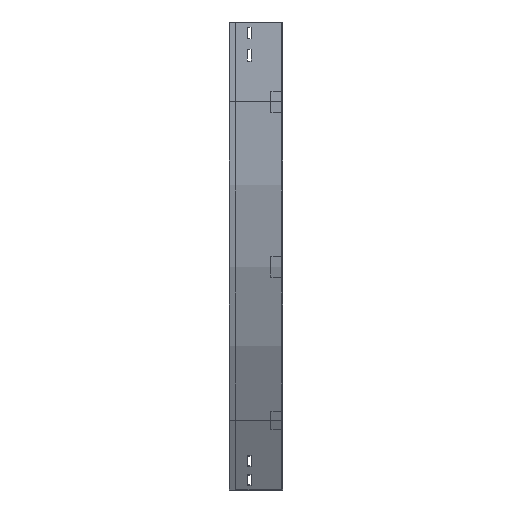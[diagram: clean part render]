
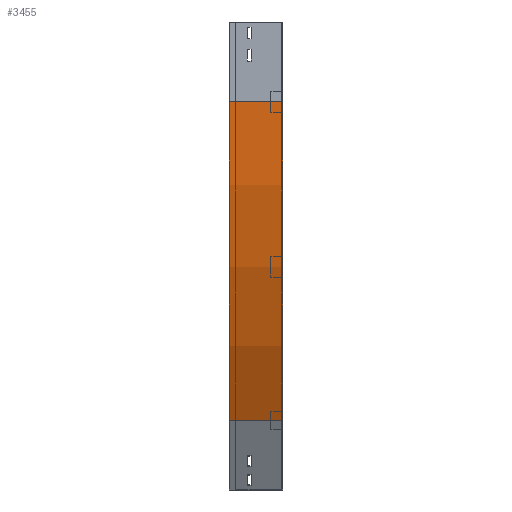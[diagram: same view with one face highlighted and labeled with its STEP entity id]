
A CAD part, left-side view. The second image highlights one B-rep face of the part: STEP entity #3455.
In plain terms, the highlighted cylindrical face has radius 1200 mm (diameter 2400 mm), a partial arc.
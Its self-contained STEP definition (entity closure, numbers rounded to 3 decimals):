
#20 = ORIENTED_EDGE ( 'NONE', *, *, #2915, .T. ) ;
#89 = LINE ( 'NONE', #985, #1207 ) ;
#107 = VERTEX_POINT ( 'NONE', #847 ) ;
#111 = DIRECTION ( 'NONE',  ( 0., -1., 0. ) ) ;
#160 = VECTOR ( 'NONE', #1553, 1000. ) ;
#295 = EDGE_CURVE ( 'NONE', #973, #3364, #89, .T. ) ;
#330 = AXIS2_PLACEMENT_3D ( 'NONE', #3189, #567, #2659 ) ;
#371 = CARTESIAN_POINT ( 'NONE',  ( 1200., 100., -150. ) ) ;
#456 = CARTESIAN_POINT ( 'NONE',  ( 0., 0., -150. ) ) ;
#567 = DIRECTION ( 'NONE',  ( 0., -1., 0. ) ) ;
#654 = DIRECTION ( 'NONE',  ( -1., 0., 0. ) ) ;
#847 = CARTESIAN_POINT ( 'NONE',  ( 160.77, 100., -750. ) ) ;
#854 = ORIENTED_EDGE ( 'NONE', *, *, #295, .F. ) ;
#876 = CARTESIAN_POINT ( 'NONE',  ( 1200., 0., -150. ) ) ;
#892 = CARTESIAN_POINT ( 'NONE',  ( 0., 100., -150. ) ) ;
#973 = VERTEX_POINT ( 'NONE', #892 ) ;
#985 = CARTESIAN_POINT ( 'NONE',  ( 0., 0., -150. ) ) ;
#991 = LINE ( 'NONE', #2417, #160 ) ;
#1029 = EDGE_LOOP ( 'NONE', ( #2702, #854, #1294, #20 ) ) ;
#1207 = VECTOR ( 'NONE', #111, 1000. ) ;
#1214 = AXIS2_PLACEMENT_3D ( 'NONE', #371, #1803, #654 ) ;
#1294 = ORIENTED_EDGE ( 'NONE', *, *, #2723, .T. ) ;
#1401 = CIRCLE ( 'NONE', #1214, 1200. ) ;
#1410 = AXIS2_PLACEMENT_3D ( 'NONE', #876, #2121, #3279 ) ;
#1553 = DIRECTION ( 'NONE',  ( 0., -1., 0. ) ) ;
#1600 = CARTESIAN_POINT ( 'NONE',  ( 160.77, 0., -750. ) ) ;
#1803 = DIRECTION ( 'NONE',  ( 0., -1., 0. ) ) ;
#2121 = DIRECTION ( 'NONE',  ( 0., -1., 0. ) ) ;
#2258 = EDGE_CURVE ( 'NONE', #3364, #3438, #2598, .T. ) ;
#2417 = CARTESIAN_POINT ( 'NONE',  ( 160.77, 0., -750. ) ) ;
#2598 = CIRCLE ( 'NONE', #1410, 1200. ) ;
#2659 = DIRECTION ( 'NONE',  ( 0., 0., -1. ) ) ;
#2702 = ORIENTED_EDGE ( 'NONE', *, *, #2258, .F. ) ;
#2723 = EDGE_CURVE ( 'NONE', #973, #107, #1401, .T. ) ;
#2915 = EDGE_CURVE ( 'NONE', #107, #3438, #991, .T. ) ;
#2953 = CYLINDRICAL_SURFACE ( 'NONE', #330, 1200. ) ;
#3189 = CARTESIAN_POINT ( 'NONE',  ( 1200., 0., -150. ) ) ;
#3279 = DIRECTION ( 'NONE',  ( -1., 0., 0. ) ) ;
#3364 = VERTEX_POINT ( 'NONE', #456 ) ;
#3438 = VERTEX_POINT ( 'NONE', #1600 ) ;
#3455 = ADVANCED_FACE ( 'NONE', ( #3820 ), #2953, .T. ) ;
#3820 = FACE_OUTER_BOUND ( 'NONE', #1029, .T. ) ;
